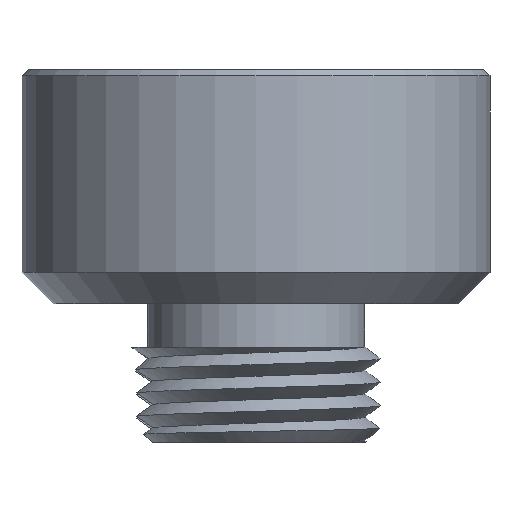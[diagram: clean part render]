
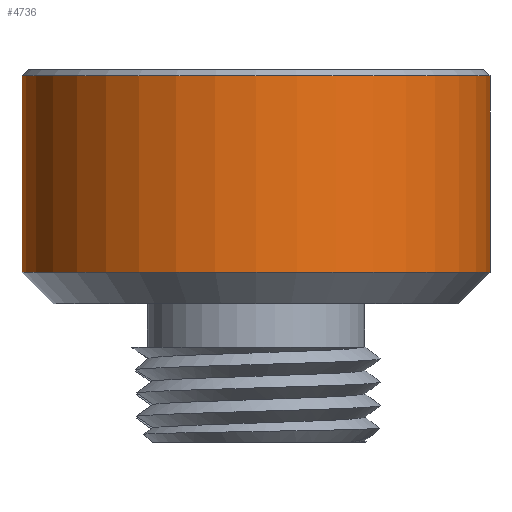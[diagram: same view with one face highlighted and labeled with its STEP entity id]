
A CAD part, front view. The second image highlights one B-rep face of the part: STEP entity #4736.
In plain terms, the highlighted cylindrical face has radius 7.5 mm (diameter 15 mm), a partial arc.
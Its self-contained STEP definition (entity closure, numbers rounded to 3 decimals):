
#362 = CARTESIAN_POINT ( 'NONE',  ( 7.5, 0., 5.445 ) ) ;
#420 = CARTESIAN_POINT ( 'NONE',  ( -7.5, 0., 11.745 ) ) ;
#426 = CARTESIAN_POINT ( 'NONE',  ( 7.5, 0., 11.745 ) ) ;
#583 = CARTESIAN_POINT ( 'NONE',  ( -7.5, 0., 5.445 ) ) ;
#621 = DIRECTION ( 'NONE',  ( 0., 0., -1. ) ) ;
#622 = VECTOR ( 'NONE', #621, 1000. ) ;
#623 = CARTESIAN_POINT ( 'NONE',  ( -7.5, 0., 11.945 ) ) ;
#624 = LINE ( 'NONE', #623, #622 ) ;
#625 = DIRECTION ( 'NONE',  ( 0., 0., -1. ) ) ;
#626 = VECTOR ( 'NONE', #625, 1000. ) ;
#627 = CARTESIAN_POINT ( 'NONE',  ( 7.5, 0., 11.945 ) ) ;
#628 = LINE ( 'NONE', #627, #626 ) ;
#4727 = ORIENTED_EDGE ( 'NONE', *, *, #4950, .T. ) ;
#4735 = ORIENTED_EDGE ( 'NONE', *, *, #4947, .F. ) ;
#4736 = ADVANCED_FACE ( 'NONE', ( #5208 ), #5207, .T. ) ;
#4738 = ORIENTED_EDGE ( 'NONE', *, *, #4739, .T. ) ;
#4739 = EDGE_CURVE ( 'NONE', #4845, #4848, #5206, .T. ) ;
#4740 = EDGE_LOOP ( 'NONE', ( #4735, #4738, #4727, #4754 ) ) ;
#4754 = ORIENTED_EDGE ( 'NONE', *, *, #4755, .T. ) ;
#4755 = EDGE_CURVE ( 'NONE', #4908, #4827, #5238, .T. ) ;
#4827 = VERTEX_POINT ( 'NONE', #362 ) ;
#4845 = VERTEX_POINT ( 'NONE', #426 ) ;
#4848 = VERTEX_POINT ( 'NONE', #420 ) ;
#4908 = VERTEX_POINT ( 'NONE', #583 ) ;
#4947 = EDGE_CURVE ( 'NONE', #4845, #4827, #628, .T. ) ;
#4950 = EDGE_CURVE ( 'NONE', #4848, #4908, #624, .T. ) ;
#5198 = DIRECTION ( 'NONE',  ( 1., 0., 0. ) ) ;
#5199 = DIRECTION ( 'NONE',  ( 0., 0., -1. ) ) ;
#5200 = CARTESIAN_POINT ( 'NONE',  ( 0., 0., 11.745 ) ) ;
#5201 = AXIS2_PLACEMENT_3D ( 'NONE', #5200, #5199, #5198 ) ;
#5202 = DIRECTION ( 'NONE',  ( -1., 0., 0. ) ) ;
#5203 = DIRECTION ( 'NONE',  ( 0., 0., -1. ) ) ;
#5204 = CARTESIAN_POINT ( 'NONE',  ( 0., 0., 11.945 ) ) ;
#5205 = AXIS2_PLACEMENT_3D ( 'NONE', #5204, #5203, #5202 ) ;
#5206 = CIRCLE ( 'NONE', #5201, 7.5 ) ;
#5207 = CYLINDRICAL_SURFACE ( 'NONE', #5205, 7.5 ) ;
#5208 = FACE_OUTER_BOUND ( 'NONE', #4740, .T. ) ;
#5235 = DIRECTION ( 'NONE',  ( 1., 0., 0. ) ) ;
#5236 = DIRECTION ( 'NONE',  ( 0., 0., 1. ) ) ;
#5237 = AXIS2_PLACEMENT_3D ( 'NONE', #5243, #5236, #5235 ) ;
#5238 = CIRCLE ( 'NONE', #5237, 7.5 ) ;
#5243 = CARTESIAN_POINT ( 'NONE',  ( 0., 0., 5.445 ) ) ;
